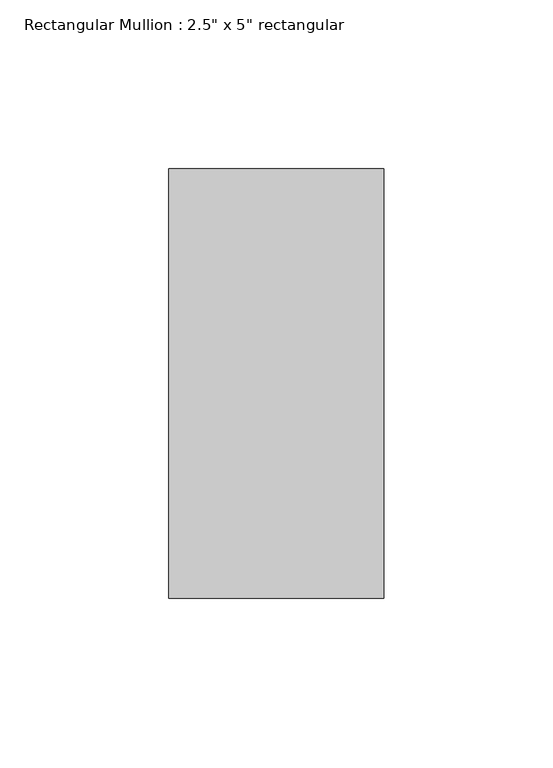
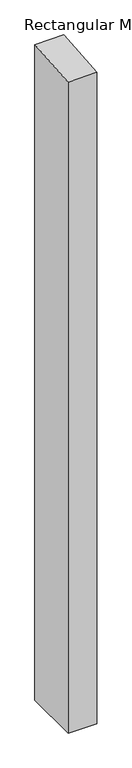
"""IFC4 building model written with IfcOpenShell, lengths in millimetres: member geometry."""

from ifc_helpers import new_model, si_unit, origin, place, context, project, spatial, faceted_brep, source, transform, mapped, element, save


def member_34720ac7(model_context):
    return source(origin(), model_context, "Body", "Brep", [
        faceted_brep([(0.0, 63.5, -1524.0), (0.0, -63.5, -1524.0), (-63.5, -63.5, -1524.0), (-63.5, 63.5, -1524.0), (-63.5, 63.5, 5.0076537), (0.0, 63.5, 5.301974), (-63.5, -63.5, -5.5962942), (0.0, -63.5, -5.301974)], [[[0, 1, 2, 3]], [[4, 5, 0, 3]], [[6, 4, 3, 2]], [[7, 6, 2, 1]], [[5, 7, 1, 0]], [[5, 4, 6, 7]]]),
    ])


if __name__ == "__main__":
    model = new_model("IFC4")
    model_context = context("Model", 3, world=origin())
    ifc_project = project(units=[si_unit("LENGTHUNIT", "METRE", prefix="MILLI")], contexts=[model_context])
    site = spatial("IfcSite", under=ifc_project)
    building = spatial("IfcBuilding", under=site)
    placement = place(None, origin())
    member_shape = member_34720ac7(model_context)
    element("IfcMember", 1, ObjectType="Rectangular Mullion : 2.5\" x 5\" rectangular", at=placement, inside=building, context=model_context, shape_type="MappedRepresentation", body=[
        mapped(member_shape, transform((0.0, 0.0, 0.0), x_axis=(1.0, 0.0, 0.0), y_axis=(0.0, 1.0, 0.0), z_axis=(0.0, 0.0, 1.0))),
    ])
    save(model, "model.ifc")
